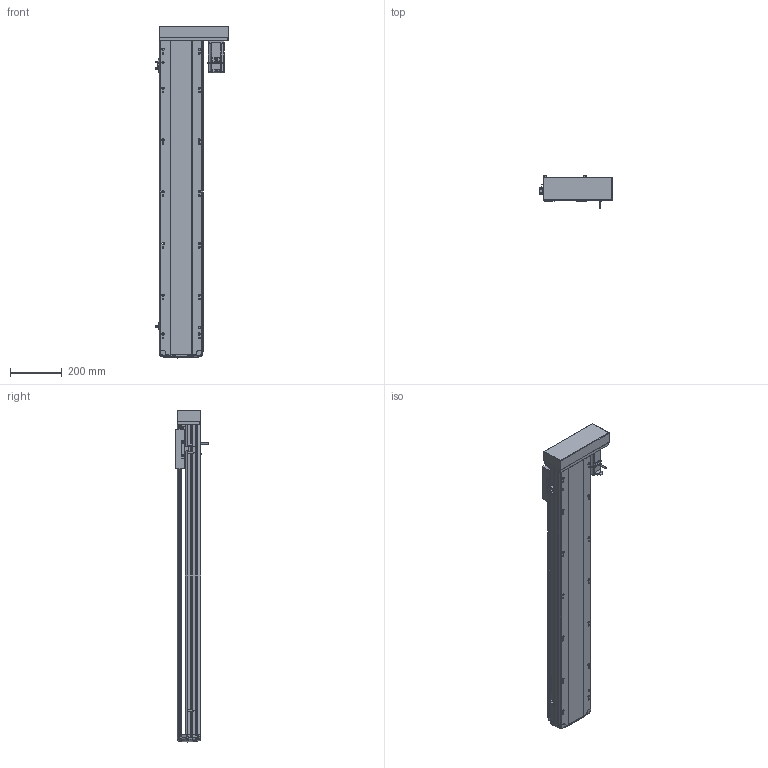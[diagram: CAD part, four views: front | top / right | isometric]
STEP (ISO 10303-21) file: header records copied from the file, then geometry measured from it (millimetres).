
FILE_DESCRIPTION (( 'STEP AP214' ), '1' );
FILE_NAME ('RTH17-XX-1000-L-M40-C4.STEP', '2025-10-24T08:48:49', ( '' ), ( '' ), 'SwSTEP 2.0', 'SolidWorks 2018', '' );
FILE_SCHEMA (( 'AUTOMOTIVE_DESIGN' ));
Length unit declared in the file: millimetre
Products named in the file (10): N_OMRON EE-SX672 換覜ん^RTH17-XX-XX-L-M40-C4ㄗ源最宒ㄘ; N_RTH-BL-012 感应片(外置)^RTH17-XX-XX-L-M40-C4（方程式）; N_RTH17-GY-001P^RTH17-XX-XX-L-M40-C4（方程式）; N_RTH17-L-018盖子^RTH17-XX-XX-L-M40-C4（方程式）; N_RTH17-L-008-P40电机安装板左转折^RTH17-XX-XX-L-M40-C4（方程式）; N_M40^RTH17-XX-XX-L-M40-C4（方程式）; N_RTH17-M-007上盖^RTH17-XX-XX-L-M40-C4（方程式）; N_RTH17-M-011底座^RTH17-XX-XX-L-M40-C4（方程式）; RTH17-XX-1000-L-M40-C4; N_RTH17-E-004丝杆螺母连接座^RTH17-XX-XX-L-M40-C4（方程式）
Assembly tree (11 placements, depth 2):
  RTH17-XX-1000-L-M40-C4
    N_RTH17-M-011底座^RTH17-XX-XX-L-M40-C4（方程式）
    N_RTH17-M-007上盖^RTH17-XX-XX-L-M40-C4（方程式）
    N_M40^RTH17-XX-XX-L-M40-C4（方程式）
    N_OMRON EE-SX672 換覜ん^RTH17-XX-XX-L-M40-C4ㄗ源最宒ㄘ  x3
    N_RTH-BL-012 感应片(外置)^RTH17-XX-XX-L-M40-C4（方程式）
    N_RTH17-L-008-P40电机安装板左转折^RTH17-XX-XX-L-M40-C4（方程式）
    N_RTH17-L-018盖子^RTH17-XX-XX-L-M40-C4（方程式）
    N_RTH17-E-004丝杆螺母连接座^RTH17-XX-XX-L-M40-C4（方程式）
    N_RTH17-GY-001P^RTH17-XX-XX-L-M40-C4（方程式）
Bounding box: 281 x 127 x 1282.99 mm (x, y, z)
Volume: 10863885.3 mm3; surface area: 1388478.2 mm2
Topology: 13 solids, 15 shells, 1679 faces, 4683 edges, 3054 vertices
Faces by surface type: plane 837, cylinder 475, bspline 330, cone 28, torus 9
Entity records: 49286 total; most frequent: CARTESIAN_POINT 19889, ORIENTED_EDGE 6390, DIRECTION 5269, EDGE_CURVE 3199, VERTEX_POINT 2090, LINE 1783, VECTOR 1783, AXIS2_PLACEMENT_3D 1743
